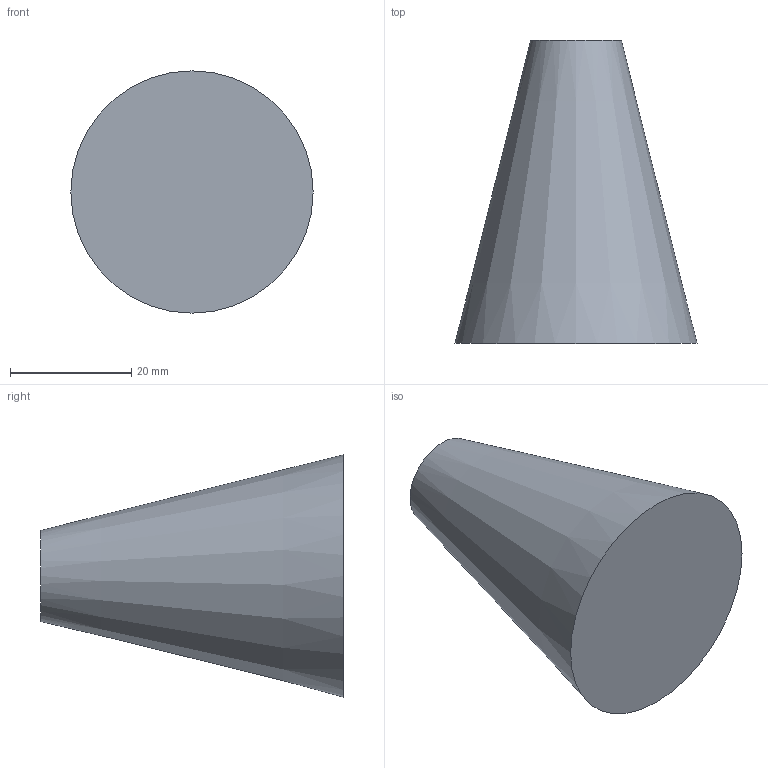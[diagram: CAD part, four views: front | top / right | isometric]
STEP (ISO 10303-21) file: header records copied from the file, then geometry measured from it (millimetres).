
FILE_DESCRIPTION(/* description */ ('','CAx-IF Rec.Pracs.---Representation and Presentation of Product Manufacturing Information (PMI)---4.0---2014-10-13'),/* implementation_level */ '2;1');
FILE_NAME(/* name */ '2.stp',/* time_stamp */ '2026-06-27T14:16:21+01:00',/* author */ ('hunte'),/* organization */ (''),/* preprocessor_version */ 'ST-DEVELOPER v20',/* originating_system */ 'Autodesk Inventor 2024',/* authorisation */ '');
FILE_SCHEMA (('AP242_MANAGED_MODEL_BASED_3D_ENGINEERING_MIM_LF { 1 0 10303 442 1 1 4 }'));
Length unit declared in the file: millimetre
Products named in the file (1): 2
Bounding box: 40 x 50 x 40 mm (x, y, z)
Volume: 31743.2 mm3; surface area: 5886 mm2
Topology: 1 solids, 1 shells, 3 faces, 3 edges, 2 vertices
Faces by surface type: plane 2, cone 1
Entity records: 190 total; most frequent: DIRECTION 39, CARTESIAN_POINT 26, AXIS2_PLACEMENT_3D 19, ORIENTED_EDGE 6, MAPPED_ITEM 5, REPRESENTATION_MAP 5, DRAUGHTING_MODEL 5, MECHANICAL_DESIGN_AND_DRAUGHTING_RELATIONSHIP 4
